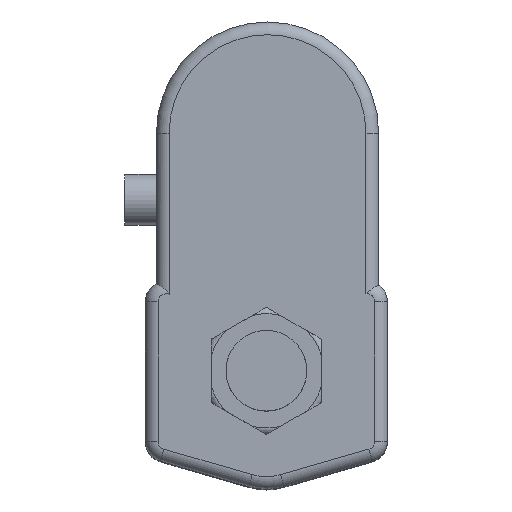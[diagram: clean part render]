
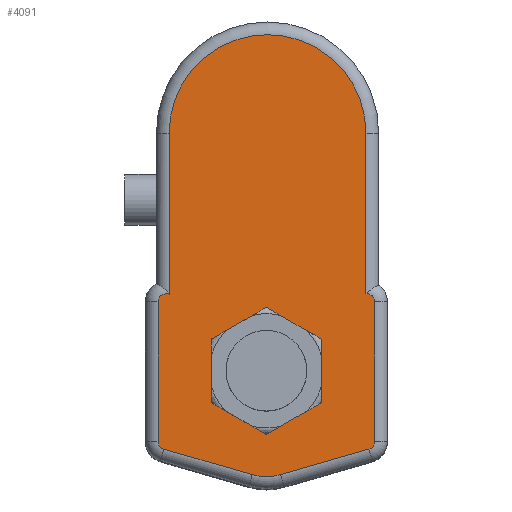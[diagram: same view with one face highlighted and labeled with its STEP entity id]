
A CAD part, top view. The second image highlights one B-rep face of the part: STEP entity #4091.
In plain terms, the highlighted planar face has unit normal (0, 0, 1).
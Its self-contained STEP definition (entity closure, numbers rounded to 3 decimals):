
#275 = LINE ( 'NONE', #985, #277 ) ;
#277 = VECTOR ( 'NONE', #1055, 1000. ) ;
#304 = CIRCLE ( 'NONE', #1923, 16. ) ;
#317 = LINE ( 'NONE', #1669, #319 ) ;
#319 = VECTOR ( 'NONE', #1473, 1000. ) ;
#320 = LINE ( 'NONE', #1483, #321 ) ;
#321 = VECTOR ( 'NONE', #1481, 1000. ) ;
#336 = CIRCLE ( 'NONE', #1938, 2.5 ) ;
#337 = CIRCLE ( 'NONE', #1935, 2.5 ) ;
#340 = CIRCLE ( 'NONE', #1939, 2.5 ) ;
#378 = LINE ( 'NONE', #2267, #381 ) ;
#381 = VECTOR ( 'NONE', #2285, 1000. ) ;
#388 = LINE ( 'NONE', #2249, #389 ) ;
#389 = VECTOR ( 'NONE', #2250, 1000. ) ;
#391 = LINE ( 'NONE', #2286, #392 ) ;
#392 = VECTOR ( 'NONE', #2287, 1000. ) ;
#394 = LINE ( 'NONE', #2319, #400 ) ;
#397 = LINE ( 'NONE', #2298, #398 ) ;
#398 = VECTOR ( 'NONE', #2299, 1000. ) ;
#399 = CIRCLE ( 'NONE', #1954, 2.5 ) ;
#400 = VECTOR ( 'NONE', #2320, 1000. ) ;
#401 = CIRCLE ( 'NONE', #1956, 31. ) ;
#402 = LINE ( 'NONE', #2300, #403 ) ;
#403 = VECTOR ( 'NONE', #2301, 1000. ) ;
#406 = VECTOR ( 'NONE', #2342, 1000. ) ;
#408 = LINE ( 'NONE', #2322, #409 ) ;
#409 = VECTOR ( 'NONE', #2323, 1000. ) ;
#411 = LINE ( 'NONE', #2341, #406 ) ;
#412 = LINE ( 'NONE', #2343, #413 ) ;
#413 = VECTOR ( 'NONE', #2344, 1000. ) ;
#512 = FACE_BOUND ( 'NONE', #3855, .T. ) ;
#517 = FACE_OUTER_BOUND ( 'NONE', #3875, .T. ) ;
#827 = CARTESIAN_POINT ( 'NONE',  ( -31.6, -22.211, 127.9 ) ) ;
#830 = DIRECTION ( 'NONE',  ( 1., 0., 0. ) ) ;
#835 = DIRECTION ( 'NONE',  ( 1., 0., 0. ) ) ;
#837 = DIRECTION ( 'NONE',  ( 1., 0., 0. ) ) ;
#839 = DIRECTION ( 'NONE',  ( 0., 0., 1. ) ) ;
#840 = DIRECTION ( 'NONE',  ( 0., 0., 1. ) ) ;
#985 = CARTESIAN_POINT ( 'NONE',  ( -34.1, 21.81, 127.9 ) ) ;
#1055 = DIRECTION ( 'NONE',  ( 0., -1., 0. ) ) ;
#1131 = ORIENTED_EDGE ( 'NONE', *, *, #1740, .T. ) ;
#1473 = DIRECTION ( 'NONE',  ( 0.961, -0.277, 0. ) ) ;
#1477 = DIRECTION ( 'NONE',  ( 0., 0., 1. ) ) ;
#1478 = CARTESIAN_POINT ( 'NONE',  ( 31.6, -22.211, 127.9 ) ) ;
#1481 = DIRECTION ( 'NONE',  ( 0.961, 0.277, 0. ) ) ;
#1483 = CARTESIAN_POINT ( 'NONE',  ( 44.025, -21.226, 127.9 ) ) ;
#1486 = CARTESIAN_POINT ( 'NONE',  ( -31.6, 21.81, 127.9 ) ) ;
#1547 = EDGE_CURVE ( 'NONE', #3646, #3650, #275, .T. ) ;
#1645 = DIRECTION ( 'NONE',  ( 0., 0., 1. ) ) ;
#1646 = DIRECTION ( 'NONE',  ( 1., 0., 0. ) ) ;
#1667 = CARTESIAN_POINT ( 'NONE',  ( 0., -17.283, 127.9 ) ) ;
#1669 = CARTESIAN_POINT ( 'NONE',  ( 14.312, -38.069, 127.9 ) ) ;
#1692 = ORIENTED_EDGE ( 'NONE', *, *, #1745, .T. ) ;
#1693 = ORIENTED_EDGE ( 'NONE', *, *, #1792, .F. ) ;
#1694 = ORIENTED_EDGE ( 'NONE', *, *, #1731, .T. ) ;
#1696 = ORIENTED_EDGE ( 'NONE', *, *, #1791, .F. ) ;
#1697 = ORIENTED_EDGE ( 'NONE', *, *, #1730, .T. ) ;
#1698 = ORIENTED_EDGE ( 'NONE', *, *, #1788, .F. ) ;
#1699 = ORIENTED_EDGE ( 'NONE', *, *, #1784, .T. ) ;
#1701 = ORIENTED_EDGE ( 'NONE', *, *, #1547, .T. ) ;
#1703 = ORIENTED_EDGE ( 'NONE', *, *, #1742, .T. ) ;
#1704 = ORIENTED_EDGE ( 'NONE', *, *, #1785, .F. ) ;
#1705 = ORIENTED_EDGE ( 'NONE', *, *, #1775, .T. ) ;
#1707 = ORIENTED_EDGE ( 'NONE', *, *, #1782, .T. ) ;
#1708 = ORIENTED_EDGE ( 'NONE', *, *, #1779, .F. ) ;
#1709 = ORIENTED_EDGE ( 'NONE', *, *, #1789, .F. ) ;
#1710 = ORIENTED_EDGE ( 'NONE', *, *, #1783, .T. ) ;
#1711 = ORIENTED_EDGE ( 'NONE', *, *, #1720, .T. ) ;
#1712 = ORIENTED_EDGE ( 'NONE', *, *, #1778, .T. ) ;
#1720 = EDGE_CURVE ( 'NONE', #3629, #3614, #304, .T. ) ;
#1730 = EDGE_CURVE ( 'NONE', #3581, #3629, #317, .T. ) ;
#1731 = EDGE_CURVE ( 'NONE', #3614, #3645, #320, .T. ) ;
#1740 = EDGE_CURVE ( 'NONE', #3632, #3646, #336, .T. ) ;
#1742 = EDGE_CURVE ( 'NONE', #3650, #3581, #337, .T. ) ;
#1745 = EDGE_CURVE ( 'NONE', #3645, #3611, #340, .T. ) ;
#1775 = EDGE_CURVE ( 'NONE', #3611, #3630, #388, .T. ) ;
#1778 = EDGE_CURVE ( 'NONE', #3593, #3632, #378, .T. ) ;
#1779 = EDGE_CURVE ( 'NONE', #3595, #3592, #391, .T. ) ;
#1782 = EDGE_CURVE ( 'NONE', #3630, #3623, #399, .T. ) ;
#1783 = EDGE_CURVE ( 'NONE', #3596, #3593, #401, .T. ) ;
#1784 = EDGE_CURVE ( 'NONE', #3623, #3596, #397, .T. ) ;
#1785 = EDGE_CURVE ( 'NONE', #3608, #3597, #402, .T. ) ;
#1788 = EDGE_CURVE ( 'NONE', #3618, #3595, #394, .T. ) ;
#1789 = EDGE_CURVE ( 'NONE', #3592, #3608, #408, .T. ) ;
#1791 = EDGE_CURVE ( 'NONE', #3586, #3618, #411, .T. ) ;
#1792 = EDGE_CURVE ( 'NONE', #3597, #3586, #412, .T. ) ;
#1923 = AXIS2_PLACEMENT_3D ( 'NONE', #1667, #1645, #1646 ) ;
#1935 = AXIS2_PLACEMENT_3D ( 'NONE', #827, #840, #837 ) ;
#1938 = AXIS2_PLACEMENT_3D ( 'NONE', #1486, #1477, #830 ) ;
#1939 = AXIS2_PLACEMENT_3D ( 'NONE', #1478, #839, #835 ) ;
#1954 = AXIS2_PLACEMENT_3D ( 'NONE', #2292, #2293, #2294 ) ;
#1956 = AXIS2_PLACEMENT_3D ( 'NONE', #2290, #2296, #2297 ) ;
#2019 = AXIS2_PLACEMENT_3D ( 'NONE', #3213, #3229, #3230 ) ;
#2249 = CARTESIAN_POINT ( 'NONE',  ( 34.1, 21.81, 127.9 ) ) ;
#2250 = DIRECTION ( 'NONE',  ( 0., 1., 0. ) ) ;
#2267 = CARTESIAN_POINT ( 'NONE',  ( -30.624, 21.81, 127.9 ) ) ;
#2285 = DIRECTION ( 'NONE',  ( 0., -1., 0. ) ) ;
#2286 = CARTESIAN_POINT ( 'NONE',  ( -17.321, -10., 127.9 ) ) ;
#2287 = DIRECTION ( 'NONE',  ( 0.866, -0.5, 0. ) ) ;
#2290 = CARTESIAN_POINT ( 'NONE',  ( 0.376, 74.902, 127.9 ) ) ;
#2292 = CARTESIAN_POINT ( 'NONE',  ( 31.6, 21.81, 127.9 ) ) ;
#2293 = DIRECTION ( 'NONE',  ( 0., 0., 1. ) ) ;
#2294 = DIRECTION ( 'NONE',  ( 1., 0., 0. ) ) ;
#2296 = DIRECTION ( 'NONE',  ( 0., 0., 1. ) ) ;
#2297 = DIRECTION ( 'NONE',  ( 1., 0., 0. ) ) ;
#2298 = CARTESIAN_POINT ( 'NONE',  ( 31.376, 21.81, 127.9 ) ) ;
#2299 = DIRECTION ( 'NONE',  ( 0., 1., 0. ) ) ;
#2300 = CARTESIAN_POINT ( 'NONE',  ( 17.321, -10., 127.9 ) ) ;
#2301 = DIRECTION ( 'NONE',  ( 0., 1., 0. ) ) ;
#2319 = CARTESIAN_POINT ( 'NONE',  ( -17.321, 10., 127.9 ) ) ;
#2320 = DIRECTION ( 'NONE',  ( 0., -1., 0. ) ) ;
#2322 = CARTESIAN_POINT ( 'NONE',  ( 0., -20., 127.9 ) ) ;
#2323 = DIRECTION ( 'NONE',  ( 0.866, 0.5, 0. ) ) ;
#2341 = CARTESIAN_POINT ( 'NONE',  ( 0., 20., 127.9 ) ) ;
#2342 = DIRECTION ( 'NONE',  ( -0.866, -0.5, 0. ) ) ;
#2343 = CARTESIAN_POINT ( 'NONE',  ( 17.321, 10., 127.9 ) ) ;
#2344 = DIRECTION ( 'NONE',  ( -0.866, 0.5, 0. ) ) ;
#3058 = CARTESIAN_POINT ( 'NONE',  ( -32.293, -24.613, 127.9 ) ) ;
#3062 = CARTESIAN_POINT ( 'NONE',  ( 0., 20., 127.9 ) ) ;
#3068 = CARTESIAN_POINT ( 'NONE',  ( 0., -20., 127.9 ) ) ;
#3069 = CARTESIAN_POINT ( 'NONE',  ( -30.624, 74.902, 127.9 ) ) ;
#3071 = CARTESIAN_POINT ( 'NONE',  ( -17.321, -10., 127.9 ) ) ;
#3072 = CARTESIAN_POINT ( 'NONE',  ( 31.376, 74.902, 127.9 ) ) ;
#3073 = CARTESIAN_POINT ( 'NONE',  ( 17.321, 10., 127.9 ) ) ;
#3084 = CARTESIAN_POINT ( 'NONE',  ( 17.321, -10., 127.9 ) ) ;
#3087 = CARTESIAN_POINT ( 'NONE',  ( 34.1, -22.211, 127.9 ) ) ;
#3090 = CARTESIAN_POINT ( 'NONE',  ( 4.438, -32.655, 127.9 ) ) ;
#3094 = CARTESIAN_POINT ( 'NONE',  ( -17.321, 10., 127.9 ) ) ;
#3099 = CARTESIAN_POINT ( 'NONE',  ( 31.376, 24.299, 127.9 ) ) ;
#3105 = CARTESIAN_POINT ( 'NONE',  ( -4.438, -32.655, 127.9 ) ) ;
#3106 = CARTESIAN_POINT ( 'NONE',  ( 34.1, 21.81, 127.9 ) ) ;
#3108 = CARTESIAN_POINT ( 'NONE',  ( -30.624, 24.111, 127.9 ) ) ;
#3121 = CARTESIAN_POINT ( 'NONE',  ( 32.293, -24.613, 127.9 ) ) ;
#3122 = CARTESIAN_POINT ( 'NONE',  ( -34.1, 21.81, 127.9 ) ) ;
#3126 = CARTESIAN_POINT ( 'NONE',  ( -34.1, -22.211, 127.9 ) ) ;
#3213 = CARTESIAN_POINT ( 'NONE',  ( 31.6, 21.81, 127.9 ) ) ;
#3228 = PLANE ( 'NONE',  #2019 ) ;
#3229 = DIRECTION ( 'NONE',  ( 0., 0., 1. ) ) ;
#3230 = DIRECTION ( 'NONE',  ( 1., 0., 0. ) ) ;
#3581 = VERTEX_POINT ( 'NONE', #3058 ) ;
#3586 = VERTEX_POINT ( 'NONE', #3062 ) ;
#3592 = VERTEX_POINT ( 'NONE', #3068 ) ;
#3593 = VERTEX_POINT ( 'NONE', #3069 ) ;
#3595 = VERTEX_POINT ( 'NONE', #3071 ) ;
#3596 = VERTEX_POINT ( 'NONE', #3072 ) ;
#3597 = VERTEX_POINT ( 'NONE', #3073 ) ;
#3608 = VERTEX_POINT ( 'NONE', #3084 ) ;
#3611 = VERTEX_POINT ( 'NONE', #3087 ) ;
#3614 = VERTEX_POINT ( 'NONE', #3090 ) ;
#3618 = VERTEX_POINT ( 'NONE', #3094 ) ;
#3623 = VERTEX_POINT ( 'NONE', #3099 ) ;
#3629 = VERTEX_POINT ( 'NONE', #3105 ) ;
#3630 = VERTEX_POINT ( 'NONE', #3106 ) ;
#3632 = VERTEX_POINT ( 'NONE', #3108 ) ;
#3645 = VERTEX_POINT ( 'NONE', #3121 ) ;
#3646 = VERTEX_POINT ( 'NONE', #3122 ) ;
#3650 = VERTEX_POINT ( 'NONE', #3126 ) ;
#3855 = EDGE_LOOP ( 'NONE', ( #1704, #1709, #1708, #1698, #1696, #1693 ) ) ;
#3875 = EDGE_LOOP ( 'NONE', ( #1131, #1701, #1703, #1697, #1711, #1694, #1692, #1705, #1707, #1699, #1710, #1712 ) ) ;
#4091 = ADVANCED_FACE ( 'NONE', ( #517, #512 ), #3228, .T. ) ;
